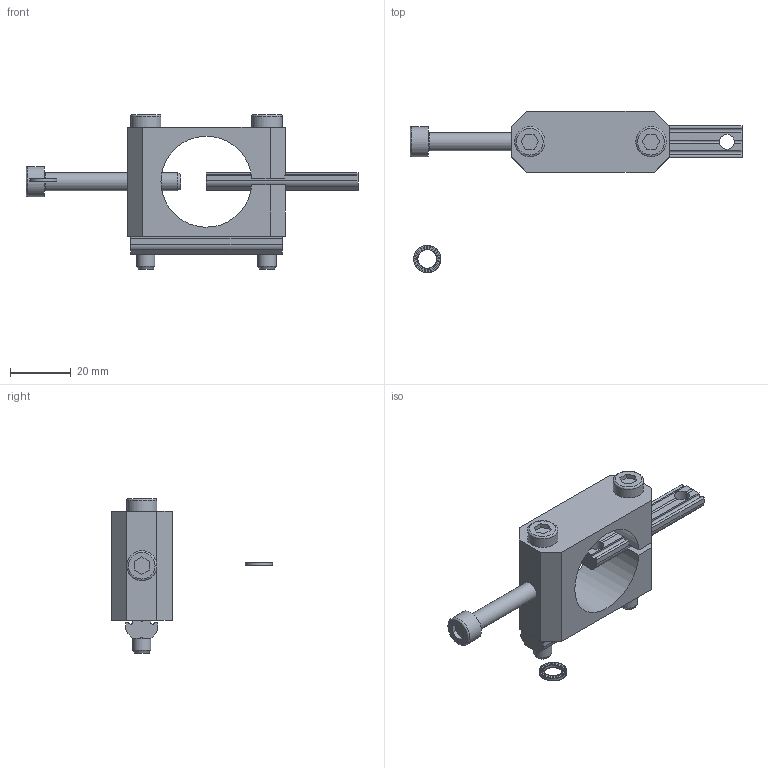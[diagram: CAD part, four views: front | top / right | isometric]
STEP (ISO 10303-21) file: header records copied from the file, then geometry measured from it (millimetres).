
FILE_DESCRIPTION( ( 'Unknown' ), '1' );
FILE_NAME( 'Z:/DISEGNI ACCESSORI FP SOLIDEDGE/CA.KVB.JU30.stp', 'Unknown', ( 'Unknown' ), ( 'Unknown' ), 'PSStep 13.0', 'Unknown', ' ' );
FILE_SCHEMA( ( 'AUTOMOTIVE_DESIGN { 1 0 10303 214 1 1 1 1 }' ) );
Length unit declared in the file: millimetre
Products named in the file (5): Assem1; KVB.JU30; R.6.SCH; V-tcei M  6 x 45; CA.GWP.6.40
Bounding box: 109.5 x 53.14 x 51 mm (x, y, z)
Volume: 47396.4 mm3; surface area: 25076.3 mm2
Topology: 7 solids, 10 shells, 727 faces, 2119 edges, 1405 vertices
Faces by surface type: plane 666, cylinder 52, torus 6, cone 3
Full cylindrical faces by diameter (mm): 4.917 x4, 6 x3, 6.2 x9, 9 x3, 10 x7
Entity records: 10389 total; most frequent: CARTESIAN_POINT 1567, DIRECTION 1493, ORIENTED_EDGE 1468, EDGE_CURVE 734, AXIS2_PLACEMENT_3D 501, VERTEX_POINT 495, LINE 491, VECTOR 491
